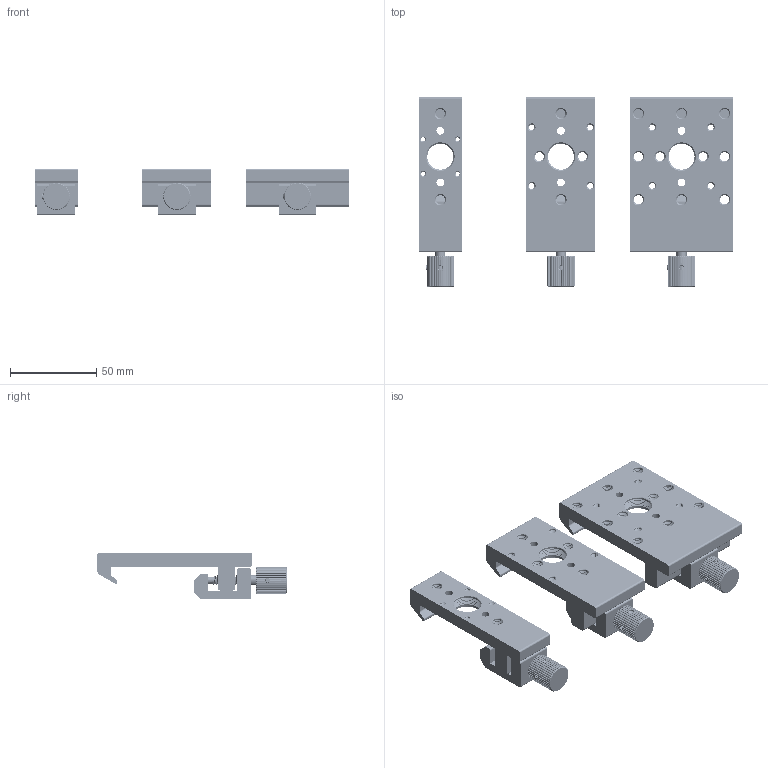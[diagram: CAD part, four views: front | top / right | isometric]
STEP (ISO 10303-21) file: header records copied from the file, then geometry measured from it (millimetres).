
FILE_DESCRIPTION((''),'2;1');
FILE_NAME('OOP_25_40_60-M6_ASM','2020-10-13T',('Administrator'),(''),'CREO PARAMETRIC BY PTC INC, 2015290','CREO PARAMETRIC BY PTC INC, 2015290','');
FILE_SCHEMA(('CONFIG_CONTROL_DESIGN'));
Products named in the file (8): OOP-25-M6; OOP-PJ22; OOP-SCREW; OOP-SCREW_CAP; M3X5_HS; OOP-40-M6; OOP-60-M6; OOP_25_40_60-M6_ASM
Assembly tree (18 placements, depth 2):
  OOP_25_40_60-M6_ASM
    OOP-25-M6
    OOP-PJ22  x3
    OOP-SCREW  x3
    OOP-SCREW_CAP  x3
    M3X5_HS  x6
    OOP-40-M6
    OOP-60-M6
Bounding box: 182.5 x 110 x 27 mm (x, y, z)
Volume: 133918.3 mm3; surface area: 59679.6 mm2
Topology: 18 solids, 18 shells, 2037 faces, 5595 edges, 3611 vertices
Faces by surface type: cylinder 1227, bspline 442, cone 186, plane 182
Entity records: 96841 total; most frequent: CARTESIAN_POINT 65088, ORIENTED_EDGE 7758, DIRECTION 4660, EDGE_CURVE 3879, VERTEX_POINT 2493, B_SPLINE_CURVE_WITH_KNOTS 1901, AXIS2_PLACEMENT_3D 1598, EDGE_LOOP 1500
